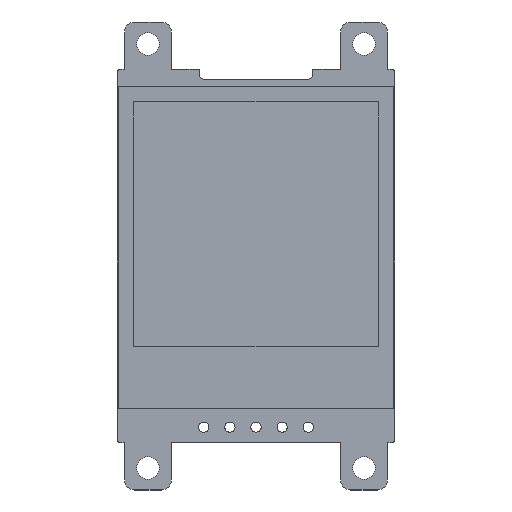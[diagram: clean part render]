
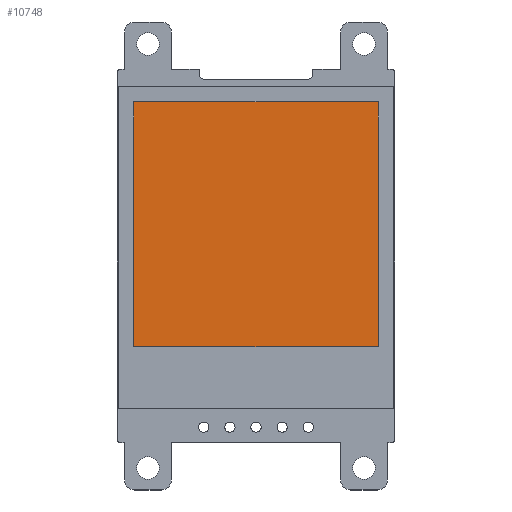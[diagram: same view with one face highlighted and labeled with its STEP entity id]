
A CAD part, top view. The second image highlights one B-rep face of the part: STEP entity #10748.
In plain terms, the highlighted planar face has unit normal (0, 0, 1).
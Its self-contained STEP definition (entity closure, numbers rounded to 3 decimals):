
#10619 = VERTEX_POINT('',#10620);
#10620 = CARTESIAN_POINT('',(-11.9,-8.83,2.));
#10635 = VERTEX_POINT('',#10636);
#10636 = CARTESIAN_POINT('',(-11.9,14.97,2.));
#10642 = EDGE_CURVE('',#10619,#10635,#10643,.T.);
#10643 = LINE('',#10644,#10645);
#10644 = CARTESIAN_POINT('',(-11.9,-8.83,2.));
#10645 = VECTOR('',#10646,1.);
#10646 = DIRECTION('',(-0.,1.,0.));
#10659 = VERTEX_POINT('',#10660);
#10660 = CARTESIAN_POINT('',(11.9,-8.83,2.));
#10675 = VERTEX_POINT('',#10676);
#10676 = CARTESIAN_POINT('',(11.9,14.97,2.));
#10682 = EDGE_CURVE('',#10659,#10675,#10683,.T.);
#10683 = LINE('',#10684,#10685);
#10684 = CARTESIAN_POINT('',(11.9,-8.83,2.));
#10685 = VECTOR('',#10686,1.);
#10686 = DIRECTION('',(-0.,1.,0.));
#10703 = EDGE_CURVE('',#10619,#10659,#10704,.T.);
#10704 = LINE('',#10705,#10706);
#10705 = CARTESIAN_POINT('',(-11.9,-8.83,2.));
#10706 = VECTOR('',#10707,1.);
#10707 = DIRECTION('',(1.,0.,-0.));
#10725 = EDGE_CURVE('',#10635,#10675,#10726,.T.);
#10726 = LINE('',#10727,#10728);
#10727 = CARTESIAN_POINT('',(-11.9,14.97,2.));
#10728 = VECTOR('',#10729,1.);
#10729 = DIRECTION('',(1.,0.,-0.));
#10748 = ADVANCED_FACE('',(#10749),#10755,.T.);
#10749 = FACE_BOUND('',#10750,.T.);
#10750 = EDGE_LOOP('',(#10751,#10752,#10753,#10754));
#10751 = ORIENTED_EDGE('',*,*,#10642,.F.);
#10752 = ORIENTED_EDGE('',*,*,#10703,.T.);
#10753 = ORIENTED_EDGE('',*,*,#10682,.T.);
#10754 = ORIENTED_EDGE('',*,*,#10725,.F.);
#10755 = PLANE('',#10756);
#10756 = AXIS2_PLACEMENT_3D('',#10757,#10758,#10759);
#10757 = CARTESIAN_POINT('',(-11.9,-8.83,2.));
#10758 = DIRECTION('',(0.,0.,1.));
#10759 = DIRECTION('',(1.,0.,-0.));
